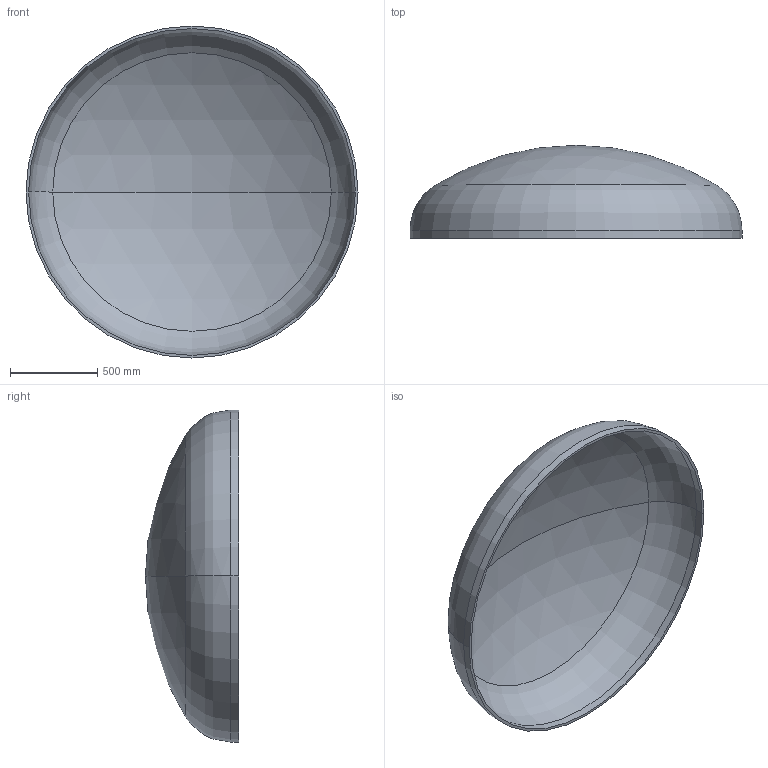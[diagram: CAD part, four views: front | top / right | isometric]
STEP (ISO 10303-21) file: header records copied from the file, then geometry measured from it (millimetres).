
FILE_DESCRIPTION (( 'STEP AP203' ), '1' );
FILE_NAME ('DIN 28013 Korbbogenform_-_Boden DIN 28013 - 1900 x 45 - I - s=15.step', '2016-07-01T12:56:42', ( '' ), ( '' ), 'SwSTEP 2.0', 'SolidWorks 2013', '' );
FILE_SCHEMA (( 'CONFIG_CONTROL_DESIGN' ));
Length unit declared in the file: millimetre
Products named in the file (1): DIN 28013 Korbbogenform_-_Boden DIN 28013 - 1900 x 45 - I - s=15
Bounding box: 1900 x 532.68 x 1900 mm (x, y, z)
Volume: 62187165.1 mm3; surface area: 8380918.6 mm2
Topology: 1 solids, 1 shells, 13 faces, 24 edges, 14 vertices
Faces by surface type: torus 4, cylinder 4, sphere 4, plane 1
Entity records: 407 total; most frequent: DIRECTION 72, CARTESIAN_POINT 52, ORIENTED_EDGE 48, AXIS2_PLACEMENT_3D 34, EDGE_CURVE 24, CIRCLE 20, EDGE_LOOP 14, VERTEX_POINT 14
